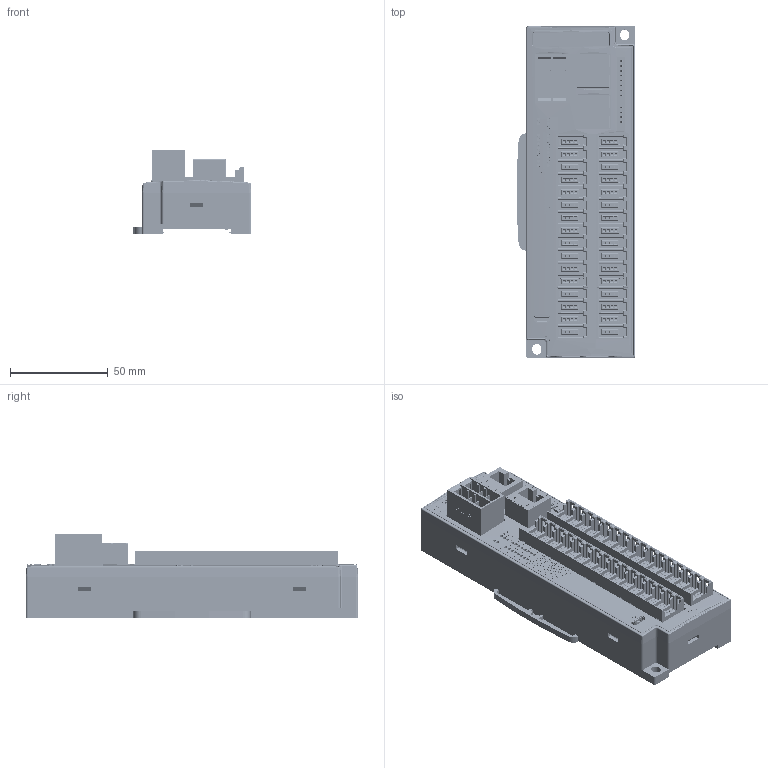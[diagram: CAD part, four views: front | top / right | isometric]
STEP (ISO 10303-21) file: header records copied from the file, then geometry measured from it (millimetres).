
FILE_DESCRIPTION((''),'2;1');
FILE_NAME('EIEP0W','2026-05-11T16:25:05',('gijyu181'),(''),'CREO PARAMETRIC BY PTC INC, 2018050','CREO PARAMETRIC BY PTC INC, 2018050','');
FILE_SCHEMA(('CONFIG_CONTROL_DESIGN','SHAPE_APPEARANCE_LAYERS_GROUPS'));
Products named in the file (1): EIEP0W
Bounding box: 60.87 x 170 x 42.6 mm (x, y, z)
Volume: 275220.7 mm3; surface area: 162532.6 mm2
Topology: 653 solids, 653 shells, 17526 faces, 46490 edges, 31020 vertices
Faces by surface type: plane 12821, extrusion 2474, cylinder 2096, bspline 69, cone 41, torus 21, sphere 4
Entity records: 668624 total; most frequent: CARTESIAN_POINT 151894, ORIENTED_EDGE 92980, DIRECTION 77549, EDGE_CURVE 46490, VECTOR 38231, LINE 35757, VERTEX_POINT 31020, AXIS2_PLACEMENT_3D 19659
